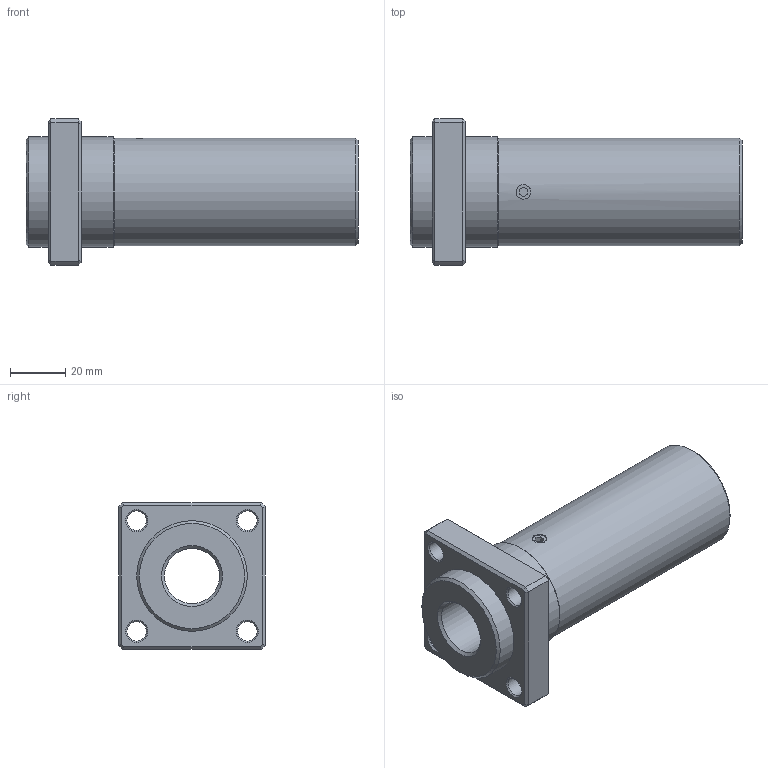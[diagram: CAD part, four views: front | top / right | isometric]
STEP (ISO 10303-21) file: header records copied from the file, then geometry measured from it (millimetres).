
FILE_DESCRIPTION(('STEP AP203'),'1');
FILE_NAME('//192.168.1.1/share/s-4 技術開発/s-4-14_個人別フォルダ/橋詰/09_CAD_DATA/3D/HP用/3Ｄモデル/LCF/LCF-BL/LCF-20BLUU.step','2021-12-09T05:11:35',(' '),(' '),'Spatial InterOp 3D',' ',' ');
FILE_SCHEMA(('CONFIG_CONTROL_DESIGN'));
Length unit declared in the file: millimetre
Products named in the file (2): 1; 2
Bounding box: 120 x 53 x 53 mm (x, y, z)
Volume: 123829.2 mm3; surface area: 28777.5 mm2
Topology: 2 solids, 2 shells, 62 faces, 143 edges, 86 vertices
Faces by surface type: plane 25, cone 23, cylinder 14
Full cylindrical faces by diameter (mm): 5.25 x1, 6 x1, 7 x4, 20 x1, 39 x1, 40 x2
Entity records: 1768 total; most frequent: CARTESIAN_POINT 418, DIRECTION 266, ORIENTED_EDGE 216, AXIS2_PLACEMENT_3D 112, EDGE_CURVE 108, EDGE_LOOP 102, VERTEX_POINT 78, FACE_OUTER_BOUND 72
